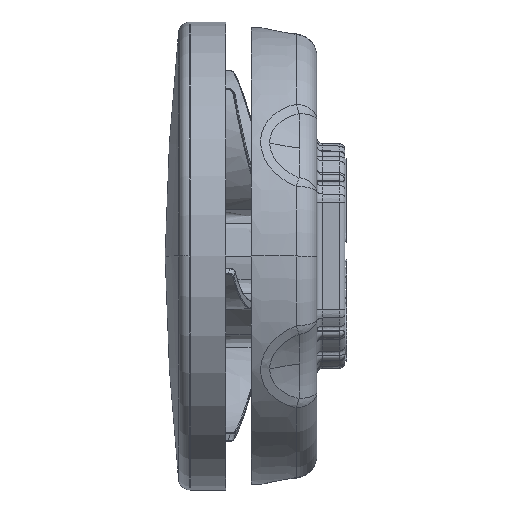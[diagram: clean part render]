
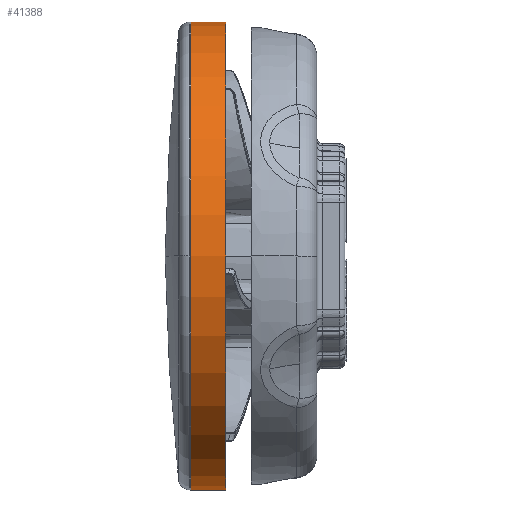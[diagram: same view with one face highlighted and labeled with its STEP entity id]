
A CAD part, left-side view. The second image highlights one B-rep face of the part: STEP entity #41388.
In plain terms, the highlighted cylindrical face has radius 31.686 mm (diameter 63.373 mm), a partial arc.
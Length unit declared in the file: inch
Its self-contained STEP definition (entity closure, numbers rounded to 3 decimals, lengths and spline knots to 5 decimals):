
#177 = ORIENTED_EDGE ( 'NONE', *, *, #19814, .F. ) ;
#215 = LINE ( 'NONE', #4902, #46454 ) ;
#3879 = VERTEX_POINT ( 'NONE', #7323 ) ;
#4211 = VERTEX_POINT ( 'NONE', #4856 ) ;
#4856 = CARTESIAN_POINT ( 'NONE',  ( 0., 0.188, 1.2475 ) ) ;
#4902 = CARTESIAN_POINT ( 'NONE',  ( 0., 0.188, -1.2475 ) ) ;
#4954 = CIRCLE ( 'NONE', #53671, 1.2475 ) ;
#5405 = CARTESIAN_POINT ( 'NONE',  ( 0., 0.188, 1.2475 ) ) ;
#7066 = ORIENTED_EDGE ( 'NONE', *, *, #33070, .F. ) ;
#7323 = CARTESIAN_POINT ( 'NONE',  ( 0., 0.188, -1.2475 ) ) ;
#7430 = AXIS2_PLACEMENT_3D ( 'NONE', #51048, #25038, #55425 ) ;
#9790 = DIRECTION ( 'NONE',  ( 0., -1., 0. ) ) ;
#14343 = VECTOR ( 'NONE', #9790, 39.37008 ) ;
#18957 = AXIS2_PLACEMENT_3D ( 'NONE', #40961, #45497, #53918 ) ;
#19814 = EDGE_CURVE ( 'NONE', #3879, #4211, #4954, .T. ) ;
#21158 = CIRCLE ( 'NONE', #7430, 1.2475 ) ;
#23134 = CARTESIAN_POINT ( 'NONE',  ( 0., 0.188, 0. ) ) ;
#24136 = ORIENTED_EDGE ( 'NONE', *, *, #40093, .T. ) ;
#25038 = DIRECTION ( 'NONE',  ( 0., 1., 0. ) ) ;
#26957 = DIRECTION ( 'NONE',  ( 0., -1., 0. ) ) ;
#27515 = DIRECTION ( 'NONE',  ( 0., 0., 1. ) ) ;
#27986 = VERTEX_POINT ( 'NONE', #40411 ) ;
#29950 = EDGE_LOOP ( 'NONE', ( #7066, #177, #24136, #52147 ) ) ;
#32803 = EDGE_CURVE ( 'NONE', #50822, #27986, #21158, .T. ) ;
#33070 = EDGE_CURVE ( 'NONE', #4211, #27986, #37460, .T. ) ;
#37451 = CARTESIAN_POINT ( 'NONE',  ( 0., 0., -1.2475 ) ) ;
#37460 = LINE ( 'NONE', #5405, #14343 ) ;
#40093 = EDGE_CURVE ( 'NONE', #3879, #50822, #215, .T. ) ;
#40411 = CARTESIAN_POINT ( 'NONE',  ( 0., 0., 1.2475 ) ) ;
#40961 = CARTESIAN_POINT ( 'NONE',  ( 0., 0.188, 0. ) ) ;
#41388 = ADVANCED_FACE ( 'NONE', ( #49794 ), #51175, .T. ) ;
#45497 = DIRECTION ( 'NONE',  ( 0., -1., 0. ) ) ;
#46454 = VECTOR ( 'NONE', #26957, 39.37008 ) ;
#49794 = FACE_OUTER_BOUND ( 'NONE', #29950, .T. ) ;
#50822 = VERTEX_POINT ( 'NONE', #37451 ) ;
#51048 = CARTESIAN_POINT ( 'NONE',  ( 0., 0., 0. ) ) ;
#51175 = CYLINDRICAL_SURFACE ( 'NONE', #18957, 1.2475 ) ;
#52147 = ORIENTED_EDGE ( 'NONE', *, *, #32803, .T. ) ;
#53551 = DIRECTION ( 'NONE',  ( 0., 1., 0. ) ) ;
#53671 = AXIS2_PLACEMENT_3D ( 'NONE', #23134, #53551, #27515 ) ;
#53918 = DIRECTION ( 'NONE',  ( 0., 0., -1. ) ) ;
#55425 = DIRECTION ( 'NONE',  ( 0., 0., 1. ) ) ;
